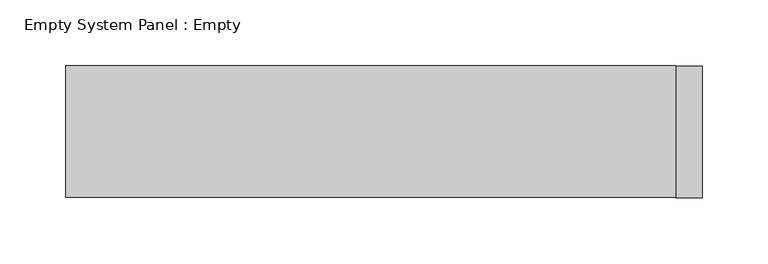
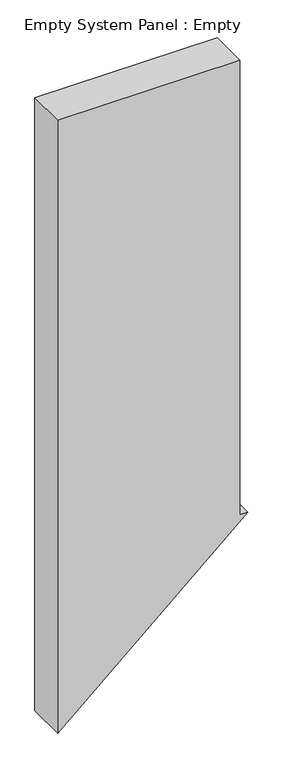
"""IFC4 building model written with IfcOpenShell, lengths in millimetres: plate geometry, Empty System Panel : Empty."""

from ifc_helpers import new_model, si_unit, frame, origin, place, context, project, spatial, polyline, outline, extrude, source, transform, mapped, element, save


def empty_system_panel_empty_5db3be65(model_context):
    return source(origin(), model_context, "Body", "SweptSolid", [
        extrude(outline(polyline([(0.0, -241.7391304), (424.4092097, 241.7391304), (424.4092097, 221.7391304), (1646.3147298, 221.7391304), (1646.3147298, -241.7391304), (0.0, -241.7391304)])), frame((0.0, -50.0, 0.0), z_axis=(0.0, 1.0, 0.0), x_axis=(0.0, 0.0, 1.0)), (0.0, 0.0, 1.0), 100.0),
    ])


if __name__ == "__main__":
    model = new_model("IFC4")
    model_context = context("Model", 3, world=origin())
    ifc_project = project(units=[si_unit("LENGTHUNIT", "METRE", prefix="MILLI")], contexts=[model_context])
    site = spatial("IfcSite", under=ifc_project)
    building = spatial("IfcBuilding", under=site)
    placement = place(None, origin())
    empty_system_panel_empty_shape = empty_system_panel_empty_5db3be65(model_context)
    element("IfcPlate", 1, ObjectType="Empty System Panel : Empty", at=placement, inside=building, context=model_context, shape_type="MappedRepresentation", body=[
        mapped(empty_system_panel_empty_shape, transform((0.0, 0.0, 0.0), x_axis=(1.0, 0.0, 0.0), y_axis=(0.0, 1.0, 0.0), z_axis=(0.0, 0.0, 1.0))),
    ])
    save(model, "model.ifc")
